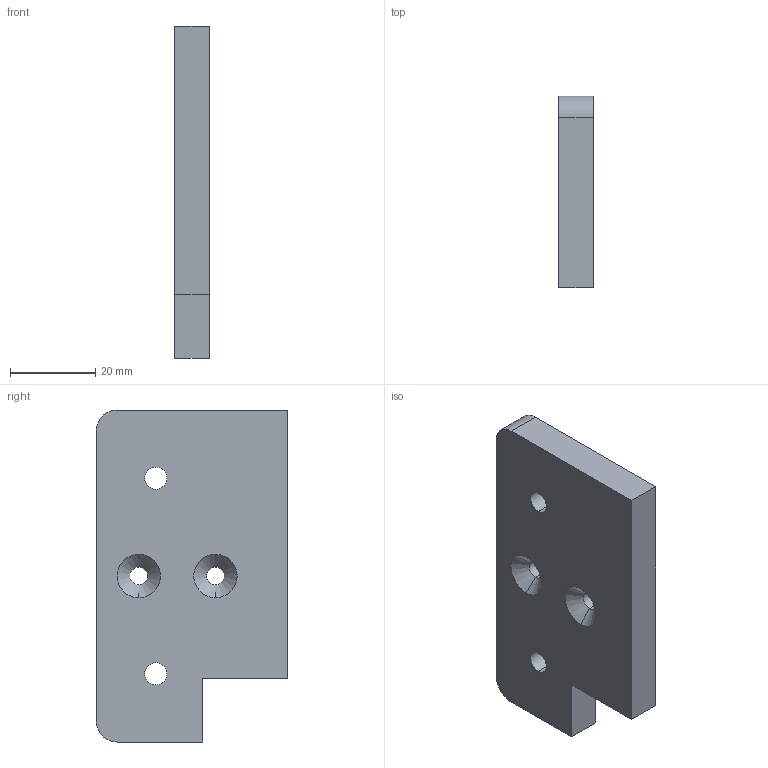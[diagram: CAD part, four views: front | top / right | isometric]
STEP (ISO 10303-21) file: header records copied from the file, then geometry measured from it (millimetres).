
FILE_DESCRIPTION (( 'STEP AP203' ), '1' );
FILE_NAME ('E6 Mounting plate V1.0.STEP', '2022-07-25T00:42:33', ( '' ), ( '' ), 'SwSTEP 2.0', 'SolidWorks 2021', '' );
FILE_SCHEMA (( 'CONFIG_CONTROL_DESIGN' ));
Length unit declared in the file: millimetre
Products named in the file (1): E6 Mounting plate V1.0
Bounding box: 8 x 45 x 78 mm (x, y, z)
Volume: 24572.7 mm3; surface area: 8735.2 mm2
Topology: 1 solids, 1 shells, 36 faces, 92 edges, 60 vertices
Faces by surface type: plane 22, cylinder 10, cone 4
Entity records: 1181 total; most frequent: DIRECTION 190, CARTESIAN_POINT 189, ORIENTED_EDGE 184, EDGE_CURVE 92, VECTOR 68, LINE 68, AXIS2_PLACEMENT_3D 61, VERTEX_POINT 60
